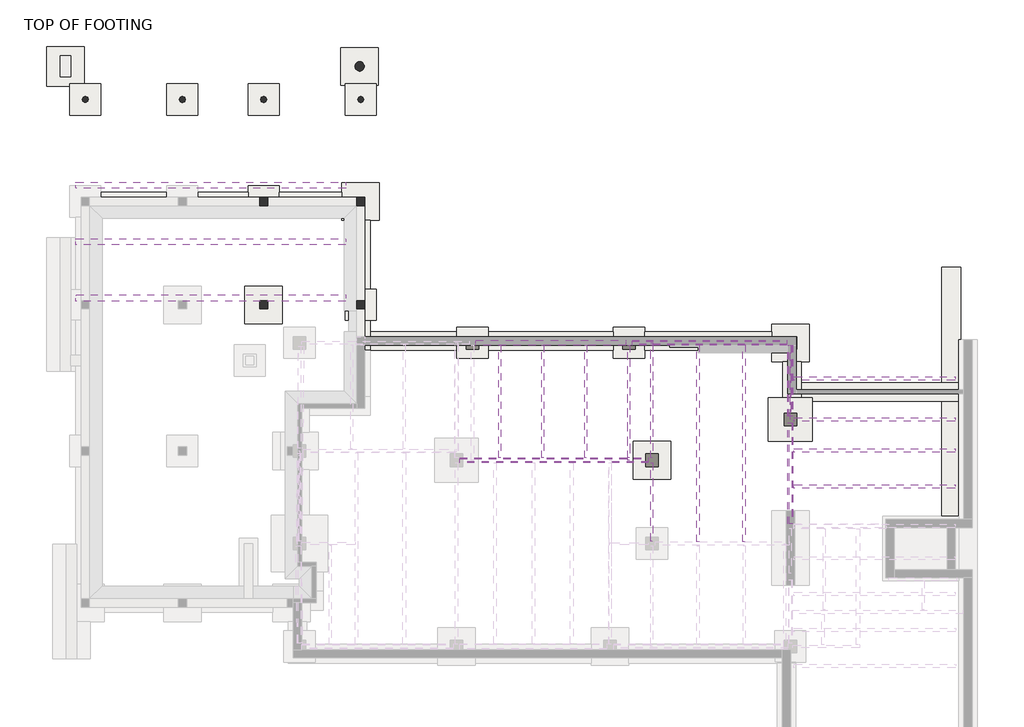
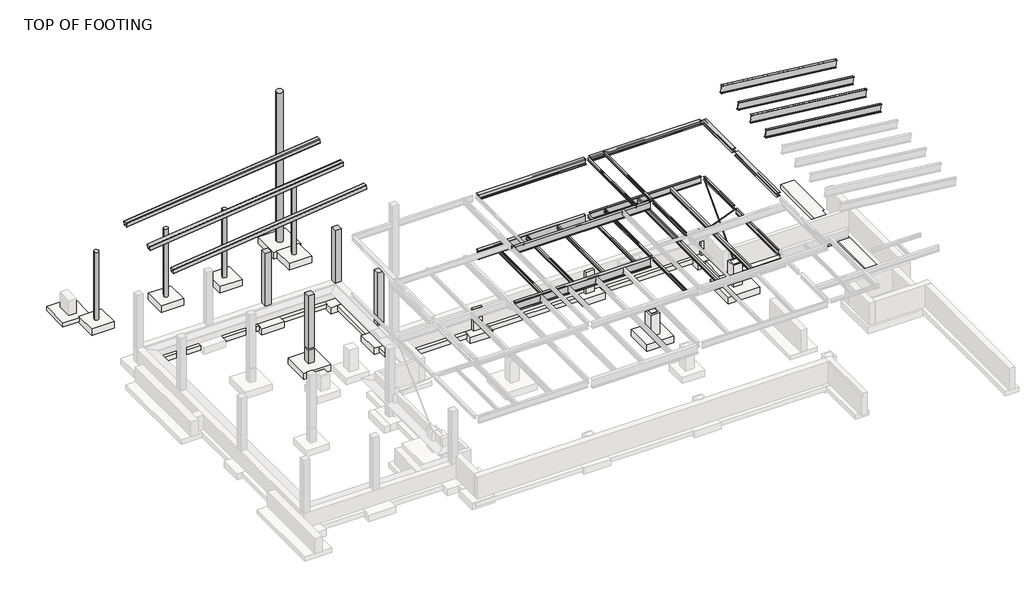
# One storey, part 4 of 4: 28 beams, 14 slabs, 9 columns, 7 footings, 2 members.
"""IFC4 building model written with IfcOpenShell, lengths in millimetres."""

from ifc_helpers import new_model, si_unit, point, frame, frame_2d, origin, place, context, project, spatial, polyline, circle_curve, trimmed, segment, composite_curve, outline, extrude, faceted_brep, transform, mapped, element, save
from components import hss_hollow_structural_section_hss12x12x1_2_ac1cf4bf, hss_hollow_structural_section_hss12x12x1_2_830ae8b1, w_wide_flange_w10x12_049afd95, w_wide_flange_w10x49_a7e93ba8, w_wide_flange_w10x49_ad4ce5ef, w_wide_flange_w10x49_01df90bb, w_wide_flange_w14x22_9bef81b0, w_wide_flange_w14x22_59cbeafc, w_wide_flange_w14x61_a1268b43, w_wide_flange_w18x46_8f6cf0fd, w_wide_flange_w21x44_e2a4c59a, w_wide_flange_w21x44_7aeec852, w_wide_flange_w21x44_d1ecdd04, w_wide_flange_w21x44_476cda67, w_wide_flange_w21x44_bd7c8782, w_wide_flange_w24x84_4cf10b94, w_wide_flange_w24x84_bdb729cd, w_wide_flange_w8x10_22581100, w_wide_flange_w8x10_418ab950, w_wide_flange_w8x10_6a41b71d, w_wide_flange_w8x10_1bc876d9, slab_df1ede25, slab_6d6a3403, footing_rectangular_with_pier_e052c68f

model = new_model("IFC4")

# Units and contexts
model_context = context("Model", 3, world=origin())
ifc_project = project(units=[si_unit("LENGTHUNIT", "METRE", prefix="MILLI")], contexts=[model_context])

# Site, building, storey
site = spatial("IfcSite", under=ifc_project)
building = spatial("IfcBuilding", under=site)
storey = spatial("IfcBuildingStorey", under=building, Name="TOP OF FOOTING", Elevation=28905.2)

# Beams
placement = place(None, origin())
hss_hollow_structural_section_hss12x12x1_2_shape = hss_hollow_structural_section_hss12x12x1_2_ac1cf4bf(model_context)
element("IfcBeam", 1, ObjectType="HSS-Hollow Structural Section : HSS12X12X1/2", at=placement, inside=storey, context=model_context, shape_type="MappedRepresentation", body=[
    mapped(hss_hollow_structural_section_hss12x12x1_2_shape, transform((-14730.32539, 15509.5995005, 39127.1188846), x_axis=(-0.9938030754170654, 0.0, -0.11115505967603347), y_axis=(0.0, -1.0, 0.0), z_axis=(-0.11115505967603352, 0.0, 0.9938030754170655))),
])
hss_hollow_structural_section_hss12x12x1_2_2_shape = hss_hollow_structural_section_hss12x12x1_2_830ae8b1(model_context)
element("IfcBeam", 2, ObjectType="HSS-Hollow Structural Section : HSS12X12X1/2", at=placement, inside=storey, context=model_context, shape_type="MappedRepresentation", body=[
    mapped(hss_hollow_structural_section_hss12x12x1_2_2_shape, transform((-14730.32539, 12766.3995005, 39127.1188846), x_axis=(-0.9938030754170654, 0.0, -0.11115505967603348), y_axis=(0.0, -1.0, 0.0), z_axis=(-0.1111550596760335, 0.0, 0.9938030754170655))),
])
element("IfcBeam", 3, ObjectType="HSS-Hollow Structural Section : HSS12X12X1/2", at=placement, inside=storey, context=model_context, shape_type="MappedRepresentation", body=[
    mapped(hss_hollow_structural_section_hss12x12x1_2_2_shape, transform((-14730.32539, 10023.1995005, 39127.1188846), x_axis=(-0.9938030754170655, 0.0, -0.11115505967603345), y_axis=(0.0, -1.0000000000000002, 0.0), z_axis=(-0.11115505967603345, 0.0, 0.9938030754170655))),
])
w_wide_flange_w10x12_shape = w_wide_flange_w10x12_049afd95(model_context)
element("IfcBeam", 4, ObjectType="W-Wide Flange : W10X12", at=placement, inside=storey, context=model_context, shape_type="MappedRepresentation", body=[
    mapped(w_wide_flange_w10x12_shape, transform((-589.9923357, 4984.1570005, 34253.551), x_axis=(0.0, -1.0, 0.0), y_axis=(1.0, 0.0, 0.0), z_axis=(0.0, 0.0, 1.0))),
])
element("IfcBeam", 5, ObjectType="W-Wide Flange : W10X12", at=placement, inside=storey, context=model_context, shape_type="MappedRepresentation", body=[
    mapped(w_wide_flange_w10x12_shape, transform((1509.8732893, 4984.1570005, 34253.551), x_axis=(0.0, -1.0, 0.0), y_axis=(1.0, 0.0, 0.0), z_axis=(0.0, 0.0, 1.0))),
])
element("IfcBeam", 6, ObjectType="W-Wide Flange : W10X12", at=placement, inside=storey, context=model_context, shape_type="MappedRepresentation", body=[
    mapped(w_wide_flange_w10x12_shape, transform((3609.7389143, 4984.1570005, 34253.551), x_axis=(0.0, -1.0, 0.0), y_axis=(1.0, 0.0, 0.0), z_axis=(0.0, 0.0, 1.0))),
])
w_wide_flange_w10x49_shape = w_wide_flange_w10x49_a7e93ba8(model_context)
element("IfcBeam", 7, ObjectType="W-Wide Flange : W10X49", at=placement, inside=storey, context=model_context, shape_type="MappedRepresentation", body=[
    mapped(w_wide_flange_w10x49_shape, transform((13567.7295393, 1507.2018176, 38341.3), x_axis=(0.0, -1.0, 0.0), y_axis=(1.0, 0.0, 0.0), z_axis=(0.0, 0.0, 1.0))),
])
w_wide_flange_w10x49_2_shape = w_wide_flange_w10x49_ad4ce5ef(model_context)
element("IfcBeam", 8, ObjectType="W-Wide Flange : W10X49", at=placement, inside=storey, context=model_context, shape_type="MappedRepresentation", body=[
    mapped(w_wide_flange_w10x49_2_shape, transform((9638.6670393, 7843.2445005, 38277.8), x_axis=(1.0, 0.0, 0.0), y_axis=(0.0, 1.0, 0.0), z_axis=(0.0, 0.0, 1.0))),
])
w_wide_flange_w10x49_3_shape = w_wide_flange_w10x49_01df90bb(model_context)
element("IfcBeam", 9, ObjectType="W-Wide Flange : W10X49", at=placement, inside=storey, context=model_context, shape_type="MappedRepresentation", body=[
    mapped(w_wide_flange_w10x49_3_shape, transform((13567.7295393, 5974.7570005, 38341.3), x_axis=(0.0, -1.0, 0.0), y_axis=(1.0, 0.0, 0.0), z_axis=(0.0, 0.0, 1.0))),
])
w_wide_flange_w14x22_shape = w_wide_flange_w14x22_9bef81b0(model_context)
element("IfcBeam", 10, ObjectType="W-Wide Flange : W14X22", at=placement, inside=storey, context=model_context, shape_type="MappedRepresentation", body=[
    mapped(w_wide_flange_w14x22_shape, transform((9072.9878726, 2953.7445005, 34204.91), x_axis=(0.0, -1.0, 0.0), y_axis=(1.0, 0.0, 0.0), z_axis=(0.0, 0.0, 1.0))),
])
element("IfcBeam", 11, ObjectType="W-Wide Flange : W14X22", at=placement, inside=storey, context=model_context, shape_type="MappedRepresentation", body=[
    mapped(w_wide_flange_w14x22_shape, transform((11320.358706, 2953.7445005, 34204.91), x_axis=(0.0, -1.0, 0.0), y_axis=(1.0, 0.0, 0.0), z_axis=(0.0, 0.0, 1.0))),
])
w_wide_flange_w14x22_2_shape = w_wide_flange_w14x22_59cbeafc(model_context)
element("IfcBeam", 12, ObjectType="W-Wide Flange : W14X22", at=placement, inside=storey, context=model_context, shape_type="MappedRepresentation", body=[
    mapped(w_wide_flange_w14x22_2_shape, transform((13567.7295393, 1512.895307, 34204.91), x_axis=(0.0, -1.0, 0.0), y_axis=(1.0, 0.0, 0.0), z_axis=(0.0, 0.0, 1.0))),
])
w_wide_flange_w14x61_shape = w_wide_flange_w14x61_a1268b43(model_context)
element("IfcBeam", 13, ObjectType="W-Wide Flange : W14X61", at=placement, inside=storey, context=model_context, shape_type="MappedRepresentation", body=[
    mapped(w_wide_flange_w14x61_shape, transform((1899.6045393, 7843.2445005, 38228.27), x_axis=(1.0, 0.0, 0.0), y_axis=(0.0, 1.0, 0.0), z_axis=(0.0, 0.0, 1.0))),
])
w_wide_flange_w18x46_shape = w_wide_flange_w18x46_8f6cf0fd(model_context)
element("IfcBeam", 14, ObjectType="W-Wide Flange : W18X46", at=placement, inside=storey, context=model_context, shape_type="MappedRepresentation", body=[
    mapped(w_wide_flange_w18x46_shape, transform((9638.6670393, 7843.2445005, 34149.03), x_axis=(1.0, 0.0, 0.0), y_axis=(0.0, 1.0, 0.0), z_axis=(0.0, 0.0, 1.0))),
])
w_wide_flange_w21x44_shape = w_wide_flange_w21x44_e2a4c59a(model_context)
element("IfcBeam", 15, ObjectType="W-Wide Flange : W21X44", at=placement, inside=storey, context=model_context, shape_type="MappedRepresentation", body=[
    mapped(w_wide_flange_w21x44_shape, transform((1975.8045393, 2125.0695005, 38141.91), x_axis=(1.0, 0.0, 0.0), y_axis=(0.0, 1.0, 0.0), z_axis=(0.0, 0.0, 1.0))),
])
w_wide_flange_w21x44_2_shape = w_wide_flange_w21x44_7aeec852(model_context)
element("IfcBeam", 16, ObjectType="W-Wide Flange : W21X44", at=placement, inside=storey, context=model_context, shape_type="MappedRepresentation", body=[
    mapped(w_wide_flange_w21x44_2_shape, transform((17638.6741644, 6094.6091164, 41130.9644247), x_axis=(0.9938030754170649, 0.0, -0.1111550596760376), y_axis=(0.0, 1.0, 0.0), z_axis=(0.11115505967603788, 0.0, 0.9938030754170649))),
])
w_wide_flange_w21x44_3_shape = w_wide_flange_w21x44_d1ecdd04(model_context)
element("IfcBeam", 17, ObjectType="W-Wide Flange : W21X44", at=placement, inside=storey, context=model_context, shape_type="MappedRepresentation", body=[
    mapped(w_wide_flange_w21x44_3_shape, transform((17638.6404524, 848.7029641, 41130.9681954), x_axis=(0.993803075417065, 0.0, -0.11115505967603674), y_axis=(0.0, 1.0, 0.0), z_axis=(0.11115505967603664, 0.0, 0.9938030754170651))),
])
w_wide_flange_w21x44_4_shape = w_wide_flange_w21x44_476cda67(model_context)
element("IfcBeam", 18, ObjectType="W-Wide Flange : W21X44", at=placement, inside=storey, context=model_context, shape_type="MappedRepresentation", body=[
    mapped(w_wide_flange_w21x44_4_shape, transform((17638.6516897, 2597.3383482, 41130.9669385), x_axis=(0.993803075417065, 0.0, -0.11115505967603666), y_axis=(0.0, 1.0, 0.0), z_axis=(0.11115505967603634, 0.0, 0.9938030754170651))),
])
w_wide_flange_w21x44_5_shape = w_wide_flange_w21x44_bd7c8782(model_context)
element("IfcBeam", 19, ObjectType="W-Wide Flange : W21X44", at=placement, inside=storey, context=model_context, shape_type="MappedRepresentation", body=[
    mapped(w_wide_flange_w21x44_5_shape, transform((17638.6613866, 4106.2695005, 41130.9658539), x_axis=(0.9938030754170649, 0.0, -0.1111550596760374), y_axis=(0.0, 0.9999999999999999, 0.0), z_axis=(0.1111550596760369, 0.0, 0.993803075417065))),
])
w_wide_flange_w24x84_shape = w_wide_flange_w24x84_4cf10b94(model_context)
element("IfcBeam", 20, ObjectType="W-Wide Flange : W24X84", at=placement, inside=storey, context=model_context, shape_type="MappedRepresentation", body=[
    mapped(w_wide_flange_w24x84_shape, transform((1899.6045393, 7843.2445005, 34072.83), x_axis=(1.0, 0.0, 0.0), y_axis=(0.0, 1.0, 0.0), z_axis=(0.0, 0.0, 1.0))),
])
w_wide_flange_w24x84_2_shape = w_wide_flange_w24x84_bdb729cd(model_context)
element("IfcBeam", 21, ObjectType="W-Wide Flange : W24X84", at=placement, inside=storey, context=model_context, shape_type="MappedRepresentation", body=[
    mapped(w_wide_flange_w24x84_2_shape, transform((1975.8045393, 2125.0695005, 34072.83), x_axis=(1.0, 0.0, 0.0), y_axis=(0.0, 1.0, 0.0), z_axis=(0.0, 0.0, 1.0))),
])
w_wide_flange_w8x10_shape = w_wide_flange_w8x10_22581100(model_context)
element("IfcBeam", 22, ObjectType="W-Wide Flange : W8X10", at=placement, inside=storey, context=model_context, shape_type="MappedRepresentation", body=[
    mapped(w_wide_flange_w8x10_shape, transform((5709.6045393, 4984.1570005, 34278.697), x_axis=(0.0, -1.0, 0.0), y_axis=(1.0, 0.0, 0.0), z_axis=(0.0, 0.0, 1.0))),
])
w_wide_flange_w8x10_2_shape = w_wide_flange_w8x10_418ab950(model_context)
element("IfcBeam", 23, ObjectType="W-Wide Flange : W8X10", at=placement, inside=storey, context=model_context, shape_type="MappedRepresentation", body=[
    mapped(w_wide_flange_w8x10_2_shape, transform((6825.6170393, 4984.1570005, 34278.697), x_axis=(0.0, -1.0, 0.0), y_axis=(1.0, 0.0, 0.0), z_axis=(0.0, 0.0, 1.0))),
])
w_wide_flange_w8x10_3_shape = w_wide_flange_w8x10_6a41b71d(model_context)
element("IfcBeam", 24, ObjectType="W-Wide Flange : W8X10", at=placement, inside=storey, context=model_context, shape_type="MappedRepresentation", body=[
    mapped(w_wide_flange_w8x10_3_shape, transform((5709.6045393, 4984.1570005, 38368.097), x_axis=(0.0, -1.0, 0.0), y_axis=(1.0, 0.0, 0.0), z_axis=(0.0, 0.0, 1.0))),
])
element("IfcBeam", 25, ObjectType="W-Wide Flange : W8X10", at=placement, inside=storey, context=model_context, shape_type="MappedRepresentation", body=[
    mapped(w_wide_flange_w8x10_3_shape, transform((6825.6170393, 4984.1570005, 38368.097), x_axis=(0.0, 1.0, 0.0), y_axis=(-1.0, 0.0, 0.0), z_axis=(0.0, 0.0, 1.0))),
])
w_wide_flange_w8x10_4_shape = w_wide_flange_w8x10_1bc876d9(model_context)
element("IfcBeam", 26, ObjectType="W-Wide Flange : W8X10", at=placement, inside=storey, context=model_context, shape_type="MappedRepresentation", body=[
    mapped(w_wide_flange_w8x10_4_shape, transform((6825.6170393, 94.6570005, 34278.697), x_axis=(0.0, -1.0, 0.0), y_axis=(1.0, 0.0, 0.0), z_axis=(0.0, 0.0, 1.0))),
])
element("IfcBeam", 27, ObjectType="W-Wide Flange : W8X10", at=placement, inside=storey, context=model_context, shape_type="MappedRepresentation", body=[
    mapped(w_wide_flange_w8x10_4_shape, transform((6825.6170393, 94.6570005, 38368.097), x_axis=(0.0, 1.0, 0.0), y_axis=(-1.0, 0.0, 0.0), z_axis=(0.0, 0.0, 1.0))),
])
element("IfcBeam", 28, ObjectType="W-Wide Flange : W8X18", at=placement, inside=storey, context=model_context, shape_type="SweptSolid", body=[
    extrude(outline(composite_curve([segment(polyline([(34180.526, 13634.4045393), (34180.526, 13582.9060393)]), True, "CONTINUOUS"), segment(trimmed(circle_curve(frame_2d((34192.7815, 13582.9060393)), 12.2555), [point((34180.526, 13582.9060393))], [point((34192.7815, 13570.6505393))], True, "CARTESIAN"), True, "CONTINUOUS"), segment(polyline([(34192.7815, 13570.6505393), (34358.2625, 13570.6505393)]), True, "CONTINUOUS"), segment(trimmed(circle_curve(frame_2d((34358.2625, 13582.9060393)), 12.2555), [point((34358.2625, 13570.6505393))], [point((34370.518, 13582.9060393))], True, "CARTESIAN"), True, "CONTINUOUS"), segment(polyline([(34370.518, 13582.9060393), (34370.518, 13634.4045393), (34378.9, 13634.4045393), (34378.9, 13501.0545393), (34370.518, 13501.0545393), (34370.518, 13552.5530393)]), True, "CONTINUOUS"), segment(trimmed(circle_curve(frame_2d((34358.2625, 13552.5530393)), 12.2555), [point((34370.518, 13552.5530393))], [point((34358.2625, 13564.8085393))], True, "CARTESIAN"), True, "CONTINUOUS"), segment(polyline([(34358.2625, 13564.8085393), (34192.7815, 13564.8085393)]), True, "CONTINUOUS"), segment(trimmed(circle_curve(frame_2d((34192.7815, 13552.5530393)), 12.2555), [point((34192.7815, 13564.8085393))], [point((34180.526, 13552.5530393))], True, "CARTESIAN"), True, "CONTINUOUS"), segment(polyline([(34180.526, 13552.5530393), (34180.526, 13501.0545393), (34172.144, 13501.0545393), (34172.144, 13634.4045393), (34180.526, 13634.4045393)]), True, "CONTINUOUS")], self_intersect=False)), frame((0.0, 4270.6253599, 0.0), z_axis=(0.0, 1.0, 0.0), x_axis=(0.0, 0.0, 1.0)), (0.0, 0.0, 1.0), 3458.2695313),
])

# Columns
element("IfcColumn", 29, ObjectType="Concrete-Rectangular-Column : 16 x 16", at=placement, inside=storey, context=model_context, shape_type="Brep", body=[
    faceted_brep([(-7149.1454607, 14926.6695005, 33782.0), (-7149.1454607, 14621.8695005, 33782.0), (-7149.1454607, 14520.2695005, 33782.0), (-7149.1454607, 14520.2695005, 29972.0), (-7149.1454607, 14926.6695005, 29972.0), (-7555.5454607, 14520.2695005, 33782.0), (-7555.5454607, 14520.2695005, 29972.0), (-7555.5454607, 14926.6695005, 33782.0), (-7555.5454607, 14926.6695005, 29972.0)], [[[0, 1, 2, 3, 4]], [[2, 5, 6, 3]], [[5, 7, 8, 6]], [[7, 0, 4, 8]], [[2, 1, 0, 7, 5]], [[4, 3, 6, 8]]]),
])
element("IfcColumn", 30, ObjectType="Concrete-Rectangular-Column : 16 x 16", at=placement, inside=storey, context=model_context, shape_type="SweptSolid", body=[
    extrude(outline(polyline([(-11873.5454607, 14926.6695005), (-11873.5454607, 14520.2695005), (-12279.9454607, 14520.2695005), (-12279.9454607, 14926.6695005), (-11873.5454607, 14926.6695005)])), frame((0.0, 0.0, 29972.0), z_axis=(0.0, 0.0, 1.0), x_axis=(1.0, 0.0, 0.0)), (0.0, 0.0, 1.0), 3810.0),
])
element("IfcColumn", 31, ObjectType="Concrete-Rectangular-Column : 16 x 16", at=placement, inside=storey, context=model_context, shape_type="Brep", body=[
    faceted_brep([(-7149.1454607, 9897.4695005, 33782.0), (-7149.1454607, 9795.8695005, 33782.0), (-7149.1454607, 9491.0695005, 33782.0), (-7149.1454607, 9491.0695005, 29972.0), (-7149.1454607, 9897.4695005, 29972.0), (-7555.5454607, 9491.0695005, 33782.0), (-7555.5454607, 9491.0695005, 29972.0), (-7555.5454607, 9897.4695005, 33782.0), (-7555.5454607, 9897.4695005, 29972.0)], [[[0, 1, 2, 3, 4]], [[2, 5, 6, 3]], [[5, 7, 8, 6]], [[7, 0, 4, 8]], [[2, 1, 0, 7, 5]], [[4, 3, 6, 8]]]),
])
element("IfcColumn", 32, ObjectType="Concrete-Rectangular-Column : 16 x 16", at=placement, inside=storey, context=model_context, shape_type="SweptSolid", body=[
    extrude(outline(polyline([(-11873.5454607, 9897.4695005), (-11873.5454607, 9491.0695005), (-12279.9454607, 9491.0695005), (-12279.9454607, 9897.4695005), (-11873.5454607, 9897.4695005)])), frame((0.0, 0.0, 28905.2), z_axis=(0.0, 0.0, 1.0), x_axis=(1.0, 0.0, 0.0)), (0.0, 0.0, 1.0), 965.2),
    extrude(outline(polyline([(-11873.5454607, 9897.4695005), (-11873.5454607, 9491.0695005), (-12279.9454607, 9491.0695005), (-12279.9454607, 9897.4695005), (-11873.5454607, 9897.4695005)])), frame((0.0, 0.0, 29972.0), z_axis=(0.0, 0.0, 1.0), x_axis=(1.0, 0.0, 0.0)), (0.0, 0.0, 1.0), 3810.0),
])
element("IfcColumn", 33, ObjectType="Concrete-Round-Column : 12\"", at=placement, inside=storey, context=model_context, shape_type="SweptSolid", body=[
    extrude(outline(composite_curve([segment(trimmed(circle_curve(frame_2d((-20763.5454607, 19695.5195005)), 152.4), [point((-20915.9454607, 19695.5195005))], [point((-20611.1454607, 19695.5195005))], False, "CARTESIAN"), True, "CONTINUOUS"), segment(trimmed(circle_curve(frame_2d((-20763.5454607, 19695.5195005)), 152.4), [point((-20611.1454607, 19695.5195005))], [point((-20915.9454607, 19695.5195005))], False, "CARTESIAN"), True, "CONTINUOUS")], self_intersect=False)), frame((0.0, 0.0, 28905.2), z_axis=(0.0, 0.0, 1.0), x_axis=(1.0, 0.0, 0.0)), (0.0, 0.0, 1.0), 4876.8),
])
element("IfcColumn", 34, ObjectType="Concrete-Round-Column : 12\"", at=placement, inside=storey, context=model_context, shape_type="SweptSolid", body=[
    extrude(outline(composite_curve([segment(trimmed(circle_curve(frame_2d((-16039.1454607, 19695.5195005)), 152.4), [point((-16191.5454607, 19695.5195005))], [point((-15886.7454607, 19695.5195005))], False, "CARTESIAN"), True, "CONTINUOUS"), segment(trimmed(circle_curve(frame_2d((-16039.1454607, 19695.5195005)), 152.4), [point((-15886.7454607, 19695.5195005))], [point((-16191.5454607, 19695.5195005))], False, "CARTESIAN"), True, "CONTINUOUS")], self_intersect=False)), frame((0.0, 0.0, 28905.2), z_axis=(0.0, 0.0, 1.0), x_axis=(1.0, 0.0, 0.0)), (0.0, 0.0, 1.0), 4876.8),
])
element("IfcColumn", 35, ObjectType="Concrete-Round-Column : 12\"", at=placement, inside=storey, context=model_context, shape_type="SweptSolid", body=[
    extrude(outline(composite_curve([segment(trimmed(circle_curve(frame_2d((-12076.7454607, 19695.5195005)), 152.4), [point((-12229.1454607, 19695.5195005))], [point((-11924.3454607, 19695.5195005))], False, "CARTESIAN"), True, "CONTINUOUS"), segment(trimmed(circle_curve(frame_2d((-12076.7454607, 19695.5195005)), 152.4), [point((-11924.3454607, 19695.5195005))], [point((-12229.1454607, 19695.5195005))], False, "CARTESIAN"), True, "CONTINUOUS")], self_intersect=False)), frame((0.0, 0.0, 28905.2), z_axis=(0.0, 0.0, 1.0), x_axis=(1.0, 0.0, 0.0)), (0.0, 0.0, 1.0), 4876.8),
])
element("IfcColumn", 36, ObjectType="Concrete-Round-Column : 12\"", at=placement, inside=storey, context=model_context, shape_type="SweptSolid", body=[
    extrude(outline(composite_curve([segment(trimmed(circle_curve(frame_2d((-7352.3454607, 19695.5195005)), 152.4), [point((-7504.7454607, 19695.5195005))], [point((-7199.9454607, 19695.5195005))], False, "CARTESIAN"), True, "CONTINUOUS"), segment(trimmed(circle_curve(frame_2d((-7352.3454607, 19695.5195005)), 152.4), [point((-7199.9454607, 19695.5195005))], [point((-7504.7454607, 19695.5195005))], False, "CARTESIAN"), True, "CONTINUOUS")], self_intersect=False)), frame((0.0, 0.0, 28905.2), z_axis=(0.0, 0.0, 1.0), x_axis=(1.0, 0.0, 0.0)), (0.0, 0.0, 1.0), 4876.8),
])
element("IfcColumn", 37, ObjectType="Concrete-Round-Column1 : 18\"", at=placement, inside=storey, context=model_context, shape_type="SweptSolid", body=[
    extrude(outline(composite_curve([segment(trimmed(circle_curve(frame_2d((-7403.1454607, 21302.0695005)), 228.6), [point((-7631.7454607, 21302.0695005))], [point((-7174.5454607, 21302.0695005))], False, "CARTESIAN"), True, "CONTINUOUS"), segment(trimmed(circle_curve(frame_2d((-7403.1454607, 21302.0695005)), 228.6), [point((-7174.5454607, 21302.0695005))], [point((-7631.7454607, 21302.0695005))], False, "CARTESIAN"), True, "CONTINUOUS")], self_intersect=False)), frame((0.0, 0.0, 28905.2), z_axis=(0.0, 0.0, 1.0), x_axis=(1.0, 0.0, 0.0)), (0.0, 0.0, 1.0), 10717.7043208),
])

# Footings
element("IfcFooting", 38, ObjectType="Bearing Footing - 36\" x 12\"", at=placement, inside=storey, context=model_context, shape_type="SweptSolid", body=[
    extrude(outline(polyline([(-8266.7454607, 15180.6695005), (-8266.7454607, 14266.2695005), (-11314.7454607, 14266.2695005), (-11314.7454607, 15180.6695005), (-8266.7454607, 15180.6695005)])), frame((0.0, 0.0, 28600.4), z_axis=(0.0, 0.0, 1.0), x_axis=(1.0, 0.0, 0.0)), (0.0, 0.0, 1.0), 304.8),
    extrude(outline(polyline([(-12838.7454607, 15180.6695005), (-12838.7454607, 14266.2695005), (-15277.1454607, 14266.2695005), (-15277.1454607, 15180.6695005), (-12838.7454607, 15180.6695005)])), frame((0.0, 0.0, 28600.4), z_axis=(0.0, 0.0, 1.0), x_axis=(1.0, 0.0, 0.0)), (0.0, 0.0, 1.0), 304.8),
    extrude(outline(polyline([(-16801.1454607, 15180.6695005), (-16801.1454607, 14266.2695005), (-20001.5454607, 14266.2695005), (-20001.5454607, 15180.6695005), (-16801.1454607, 15180.6695005)])), frame((0.0, 0.0, 28600.4), z_axis=(0.0, 0.0, 1.0), x_axis=(1.0, 0.0, 0.0)), (0.0, 0.0, 1.0), 304.8),
])
element("IfcFooting", 39, ObjectType="Bearing Footing - 36\" x 12\"", at=placement, inside=storey, context=model_context, shape_type="Brep", body=[
    faceted_brep([(-6895.1454607, 8932.2695005, 28905.2), (-7809.5454607, 8932.2695005, 28905.2), (-7809.5454607, 7471.7695005, 28905.2), (-6895.1454607, 7471.7695005, 28905.2), (-6895.1454607, 8386.1695005, 28905.2), (-6895.1454607, 7471.7695005, 28600.4), (-6895.1454607, 8386.1695005, 28600.4), (-6895.1454607, 8932.2695005, 28600.4), (-7809.5454607, 8932.2695005, 28600.4), (-7809.5454607, 7471.7695005, 28600.4)], [[[0, 1, 2, 3, 4]], [[3, 5, 6, 7, 0, 4]], [[8, 7, 6, 5, 9]], [[9, 2, 1, 8]], [[1, 0, 7, 8]], [[3, 2, 9, 5]]]),
    faceted_brep([(-7809.5454607, 10456.2695005, 28905.2), (-6895.1454607, 10456.2695005, 28905.2), (-6895.1454607, 13809.0695005, 28905.2), (-7809.5454607, 13809.0695005, 28905.2), (-6895.1454607, 10456.2695005, 28600.4), (-6895.1454607, 13809.0695005, 28600.4), (-7809.5454607, 10456.2695005, 28600.4), (-7809.5454607, 13809.0695005, 28600.4)], [[[0, 1, 2, 3]], [[1, 4, 5, 2]], [[4, 6, 7, 5]], [[6, 0, 3, 7]], [[1, 0, 6, 4]], [[3, 2, 5, 7]]]),
])
element("IfcFooting", 40, ObjectType="Bearing Footing - 36\" x 12\"", at=placement, inside=storey, context=model_context, shape_type="SweptSolid", body=[
    extrude(outline(polyline([(-2672.3954607, 8386.1695005), (-2672.3954607, 7471.7695005), (-6895.1454607, 7471.7695005), (-6895.1454607, 8386.1695005), (-2672.3954607, 8386.1695005)])), frame((0.0, 0.0, 28600.4), z_axis=(0.0, 0.0, 1.0), x_axis=(1.0, 0.0, 0.0)), (0.0, 0.0, 1.0), 304.8),
    extrude(outline(polyline([(-1148.3954607, 7471.7695005), (-1148.3954607, 8386.1695005), (4947.6045393, 8386.1695005), (4947.6045393, 7471.7695005), (-1148.3954607, 7471.7695005)])), frame((0.0, 0.0, 28600.4), z_axis=(0.0, 0.0, 1.0), x_axis=(1.0, 0.0, 0.0)), (0.0, 0.0, 1.0), 304.8),
    extrude(outline(polyline([(12653.3295393, 8386.1695005), (12653.3295393, 7471.7695005), (6471.6045393, 7471.7695005), (6471.6045393, 8386.1695005), (12653.3295393, 8386.1695005)])), frame((0.0, 0.0, 28600.4), z_axis=(0.0, 0.0, 1.0), x_axis=(1.0, 0.0, 0.0)), (0.0, 0.0, 1.0), 304.8),
])
element("IfcFooting", 41, ObjectType="Bearing Footing - 36\" x 12\"", at=placement, inside=storey, context=model_context, shape_type="Brep", body=[
    faceted_brep([(14110.6545393, 6928.8445005, 28905.2), (13196.2545393, 6928.8445005, 28905.2), (13196.2545393, 5173.0695005, 28905.2), (14110.6545393, 5173.0695005, 28905.2), (14110.6545393, 5909.6695005, 28905.2), (14110.6545393, 6928.8445005, 28600.4), (14110.6545393, 5173.0695005, 28600.4), (14110.6545393, 5909.6695005, 28600.4), (13196.2545393, 6928.8445005, 28600.4), (13196.2545393, 5173.0695005, 28600.4)], [[[0, 1, 2, 3, 4]], [[5, 0, 4, 3, 6, 7]], [[8, 5, 7, 6, 9]], [[1, 8, 9, 2]], [[1, 0, 5, 8]], [[3, 2, 9, 6]]]),
])
element("IfcFooting", 42, ObjectType="Bearing Footing - 36\" x 12\"", at=placement, inside=storey, context=model_context, shape_type="Brep", body=[
    faceted_brep([(14634.5295393, 5173.0695005, 28905.2), (14634.5295393, 4995.2695005, 28905.2), (20945.5861799, 4995.2695005, 28905.2), (21765.578935, 4995.2695005, 28905.2), (21765.578935, 5909.6695005, 28905.2), (20945.5861799, 5909.6695005, 28905.2), (14110.6545393, 5909.6695005, 28905.2), (14110.6545393, 5173.0695005, 28905.2), (21765.578935, 5909.6695005, 28600.4), (20945.5861799, 5909.6695005, 28600.4), (14110.6545393, 5909.6695005, 28600.4), (21765.578935, 4995.2695005, 28600.4), (20945.5861799, 4995.2695005, 28600.4), (14634.5295393, 4995.2695005, 28600.4), (14634.5295393, 5173.0695005, 28600.4), (14110.6545393, 5173.0695005, 28600.4)], [[[0, 1, 2, 3, 4, 5, 6, 7]], [[4, 8, 9, 10, 6, 5]], [[8, 11, 12, 13, 14, 15, 10, 9]], [[1, 13, 12, 11, 3, 2]], [[1, 0, 14, 13]], [[4, 3, 11, 8]], [[14, 0, 7, 15]], [[7, 6, 10, 15]]]),
])
element("IfcFooting", 43, ObjectType="Bearing Footing - 36\" x 12\"", at=placement, inside=storey, context=model_context, shape_type="SweptSolid", body=[
    extrude(outline(polyline([(21758.3861799, -605.4304995), (20945.5861799, -605.4304995), (20945.5861799, 4995.2695005), (21765.578935, 4995.2695005), (21765.578935, -3450.2304995), (21758.3861799, -3450.2304995), (21758.3861799, -605.4304995)])), frame((0.0, 0.0, 28600.4), z_axis=(0.0, 0.0, 1.0), x_axis=(1.0, 0.0, 0.0)), (0.0, 0.0, 1.0), 304.8),
    extrude(outline(polyline([(20945.5861799, 11523.0695005), (21859.9861799, 11523.0695005), (21859.9861799, 7995.5948911), (21765.578935, 7995.5948911), (21765.578935, 5909.6695005), (20945.5861799, 5909.6695005), (20945.5861799, 11523.0695005)])), frame((0.0, 0.0, 28600.4), z_axis=(0.0, 0.0, 1.0), x_axis=(1.0, 0.0, 0.0)), (0.0, 0.0, 1.0), 304.8),
])
element("IfcFooting", 44, ObjectType="Bearing Footing - 72\" x 12\" 2", at=placement, inside=storey, context=model_context, shape_type="SweptSolid", body=[
    extrude(outline(polyline([(-22651.3919313, 22270.6082736), (-20822.5919313, 22270.6082736), (-20822.5919313, 20457.5195005), (-21525.5454607, 20457.5195005), (-21525.5454607, 20340.2082736), (-22651.3919313, 20340.2082736), (-22651.3919313, 22270.6082736)])), frame((0.0, 0.0, 28600.4), z_axis=(0.0, 0.0, 1.0), x_axis=(1.0, 0.0, 0.0)), (0.0, 0.0, 1.0), 304.8),
])

# Members
element("IfcMember", 45, ObjectType="Round Bar : RB1", at=placement, inside=storey, context=model_context, shape_type="SweptSolid", body=[
    extrude(outline(composite_curve([segment(trimmed(circle_curve(frame_2d((0.0, -12.7)), 12.7), [point((0.0, -25.4))], [point((0.0, 0.0))], False, "CARTESIAN"), True, "CONTINUOUS"), segment(trimmed(circle_curve(frame_2d((0.0, -12.7)), 12.7), [point((0.0, 0.0))], [point((0.0, -25.4))], False, "CARTESIAN"), True, "CONTINUOUS")], self_intersect=False)), frame((13555.0295393, 4275.8774399, 30482.5348851), z_axis=(0.0, 0.6851097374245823, 0.7284398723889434), x_axis=(0.0, 0.7284398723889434, -0.6851097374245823)), (0.0, 0.0, 1.0), 4991.1009602),
])
element("IfcMember", 46, ObjectType="Round Bar : RB1", at=placement, inside=storey, context=model_context, shape_type="SweptSolid", body=[
    extrude(outline(composite_curve([segment(trimmed(circle_curve(frame_2d((0.0, -12.7)), 12.7), [point((0.0, -25.4))], [point((0.0, 0.0))], False, "CARTESIAN"), True, "CONTINUOUS"), segment(trimmed(circle_curve(frame_2d((0.0, -12.7)), 12.7), [point((0.0, 0.0))], [point((0.0, -25.4))], False, "CARTESIAN"), True, "CONTINUOUS")], self_intersect=False)), frame((13580.4295393, 7693.2003014, 30493.7622922), z_axis=(0.0, -0.694970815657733, 0.7190379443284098), x_axis=(0.0, -0.7190379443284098, -0.694970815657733)), (0.0, 0.0, 1.0), 5135.428437),
])

# Slabs
element("IfcSlab", 47, ObjectType="Footing-Rectangular : 5'-0\" x 5'-0\" x 1'-6\"", at=placement, inside=storey, context=model_context, shape_type="Brep", body=[
    faceted_brep([(-6590.3454607, 10456.2695005, 28905.2), (-6895.1454607, 10456.2695005, 28905.2), (-7809.5454607, 10456.2695005, 28905.2), (-8114.3454607, 10456.2695005, 28905.2), (-8114.3454607, 8932.2695005, 28905.2), (-7809.5454607, 8932.2695005, 28905.2), (-6895.1454607, 8932.2695005, 28905.2), (-6590.3454607, 8932.2695005, 28905.2), (-6590.3454607, 10456.2695005, 28448.0), (-6590.3454607, 8932.2695005, 28448.0), (-8114.3454607, 8932.2695005, 28448.0), (-8114.3454607, 10456.2695005, 28448.0)], [[[0, 1, 2, 3, 4, 5, 6, 7]], [[8, 9, 10, 11]], [[3, 2, 1, 0, 8, 11]], [[4, 3, 11, 10]], [[7, 6, 5, 4, 10, 9]], [[0, 7, 9, 8]]]),
])
element("IfcSlab", 48, ObjectType="Footing-Rectangular : 5'-0\" x 5'-0\" x 1'-6\"", at=placement, inside=storey, context=model_context, shape_type="Brep", body=[
    faceted_brep([(-11314.7454607, 15485.4695005, 28905.2), (-12838.7454607, 15485.4695005, 28905.2), (-12838.7454607, 15180.6695005, 28905.2), (-12838.7454607, 14266.2695005, 28905.2), (-12838.7454607, 13961.4695005, 28905.2), (-11314.7454607, 13961.4695005, 28905.2), (-11314.7454607, 14266.2695005, 28905.2), (-11314.7454607, 15180.6695005, 28905.2), (-11314.7454607, 15485.4695005, 28448.0), (-11314.7454607, 13961.4695005, 28448.0), (-12838.7454607, 13961.4695005, 28448.0), (-12838.7454607, 15485.4695005, 28448.0)], [[[0, 1, 2, 3, 4, 5, 6, 7]], [[8, 9, 10, 11]], [[1, 0, 8, 11]], [[4, 3, 2, 1, 11, 10]], [[5, 4, 10, 9]], [[0, 7, 6, 5, 9, 8]]]),
])
element("IfcSlab", 49, ObjectType="Footing-Rectangular : 5'-0\" x 5'-0\" x 1'-6\"", at=placement, inside=storey, context=model_context, shape_type="Brep", body=[
    faceted_brep([(-20001.5454607, 20457.5195005, 28905.2), (-20822.5919313, 20457.5195005, 28905.2), (-21525.5454607, 20457.5195005, 28905.2), (-21525.5454607, 20340.2082736, 28905.2), (-21525.5454607, 18933.5195005, 28905.2), (-20001.5454607, 18933.5195005, 28905.2), (-20001.5454607, 20457.5195005, 28448.0), (-20001.5454607, 18933.5195005, 28448.0), (-21525.5454607, 18933.5195005, 28448.0), (-21525.5454607, 20457.5195005, 28448.0), (-21525.5454607, 20457.5195005, 28600.4)], [[[0, 1, 2, 3, 4, 5]], [[6, 7, 8, 9]], [[2, 1, 0, 6, 9, 10]], [[4, 3, 2, 10, 9, 8]], [[5, 4, 8, 7]], [[0, 5, 7, 6]]]),
])
element("IfcSlab", 50, ObjectType="Footing-Rectangular : 5'-0\" x 5'-0\" x 1'-6\"", at=placement, inside=storey, context=model_context, shape_type="Brep", body=[
    faceted_brep([(-6590.3454607, 20457.5195005, 28905.2), (-8114.3454607, 20457.5195005, 28905.2), (-8114.3454607, 20387.6695005, 28905.2), (-8114.3454607, 18933.5195005, 28905.2), (-6590.3454607, 18933.5195005, 28905.2), (-6590.3454607, 20387.6695005, 28905.2), (-6590.3454607, 20457.5195005, 28448.0), (-6590.3454607, 20387.6695005, 28448.0), (-6590.3454607, 18933.5195005, 28448.0), (-8114.3454607, 18933.5195005, 28448.0), (-8114.3454607, 20387.6695005, 28448.0), (-8114.3454607, 20457.5195005, 28448.0)], [[[0, 1, 2, 3, 4, 5]], [[6, 7, 8, 9, 10, 11]], [[1, 0, 6, 11]], [[3, 2, 1, 11, 10, 9]], [[4, 3, 9, 8]], [[0, 5, 4, 8, 7, 6]]]),
])
slab_shape = slab_df1ede25(model_context)
element("IfcSlab", 51, ObjectType="Footing-Rectangular : 5'-0\" x 5'-0\" x 1'-6\"", at=placement, inside=storey, context=model_context, shape_type="MappedRepresentation", body=[
    mapped(slab_shape, transform((-16039.1454607, 19695.5195005, 28905.2), x_axis=(1.0, 0.0, 0.0), y_axis=(0.0, 1.0, 0.0), z_axis=(0.0, 0.0, 1.0))),
])
element("IfcSlab", 52, ObjectType="Footing-Rectangular : 5'-0\" x 5'-0\" x 1'-6\"", at=placement, inside=storey, context=model_context, shape_type="MappedRepresentation", body=[
    mapped(slab_shape, transform((-12076.7454607, 19695.5195005, 28905.2), x_axis=(1.0, 0.0, 0.0), y_axis=(0.0, 1.0, 0.0), z_axis=(0.0, 0.0, 1.0))),
])
element("IfcSlab", 53, ObjectType="Footing-Rectangular : 6'-0\" x 6'-0\" x 1'-6\"", at=placement, inside=storey, context=model_context, shape_type="Brep", body=[
    faceted_brep([(-6437.9454607, 15637.8695005, 28905.2), (-8266.7454607, 15637.8695005, 28905.2), (-8266.7454607, 15180.6695005, 28905.2), (-8266.7454607, 14266.2695005, 28905.2), (-8266.7454607, 13809.0695005, 28905.2), (-7809.5454607, 13809.0695005, 28905.2), (-6895.1454607, 13809.0695005, 28905.2), (-6437.9454607, 13809.0695005, 28905.2), (-6437.9454607, 15637.8695005, 28448.0), (-6437.9454607, 13809.0695005, 28448.0), (-8266.7454607, 13809.0695005, 28448.0), (-8266.7454607, 15637.8695005, 28448.0)], [[[0, 1, 2, 3, 4, 5, 6, 7]], [[8, 9, 10, 11]], [[1, 0, 8, 11]], [[4, 3, 2, 1, 11, 10]], [[7, 6, 5, 4, 10, 9]], [[0, 7, 9, 8]]]),
])
element("IfcSlab", 54, ObjectType="Footing-Rectangular : 6'-0\" x 6'-0\" x 1'-6\"", at=placement, inside=storey, context=model_context, shape_type="SweptSolid", body=[
    extrude(outline(polyline([(-6488.7454607, 22216.4695005), (-6488.7454607, 20387.6695005), (-6590.3454607, 20387.6695005), (-6590.3454607, 20457.5195005), (-8114.3454607, 20457.5195005), (-8114.3454607, 20387.6695005), (-8317.5454607, 20387.6695005), (-8317.5454607, 22216.4695005), (-6488.7454607, 22216.4695005)])), frame((0.0, 0.0, 28448.0), z_axis=(0.0, 0.0, 1.0), x_axis=(1.0, 0.0, 0.0)), (0.0, 0.0, 1.0), 457.2),
])
slab_2_shape = slab_6d6a3403(model_context)
element("IfcSlab", 55, ObjectType="Footing-Rectangular : 6'-0\" x 6'-0\" x 1'-6\"", at=placement, inside=storey, context=model_context, shape_type="MappedRepresentation", body=[
    mapped(slab_2_shape, transform((-12076.7454607, 9694.2695005, 28905.2), x_axis=(1.0, 0.0, 0.0), y_axis=(0.0, 1.0, 0.0), z_axis=(0.0, 0.0, 1.0))),
])
element("IfcSlab", 56, ObjectType="Footing-Rectangular_With_Pier : F1 - 5'-0\" x 5'-0\" x 1'-6\"", at=placement, inside=storey, context=model_context, shape_type="SolidModel", body=[
    extrude(outline(polyline([(-1605.5954607, 8148.0445005), (-1605.5954607, 7538.4445005), (-2215.1954607, 7538.4445005), (-2215.1954607, 8148.0445005), (-1605.5954607, 8148.0445005)])), frame((0.0, 0.0, 28905.2), z_axis=(0.0, 0.0, 1.0), x_axis=(1.0, 0.0, 0.0)), (0.0, 0.0, 1.0), 1549.4),
    faceted_brep([(-1148.3954607, 8605.2445005, 28905.2), (-2672.3954607, 8605.2445005, 28905.2), (-2672.3954607, 8386.1695005, 28905.2), (-2672.3954607, 7471.7695005, 28905.2), (-2672.3954607, 7081.2445005, 28905.2), (-1148.3954607, 7081.2445005, 28905.2), (-1148.3954607, 7471.7695005, 28905.2), (-1148.3954607, 8386.1695005, 28905.2), (-1148.3954607, 8605.2445005, 28448.0), (-1148.3954607, 7081.2445005, 28448.0), (-2672.3954607, 7081.2445005, 28448.0), (-2672.3954607, 8605.2445005, 28448.0)], [[[0, 1, 2, 3, 4, 5, 6, 7]], [[8, 9, 10, 11]], [[1, 0, 8, 11]], [[4, 3, 2, 1, 11, 10]], [[5, 4, 10, 9]], [[0, 7, 6, 5, 9, 8]]]),
])
element("IfcSlab", 57, ObjectType="Footing-Rectangular_With_Pier : F1 - 5'-0\" x 5'-0\" x 1'-6\"", at=placement, inside=storey, context=model_context, shape_type="SolidModel", body=[
    extrude(outline(polyline([(6014.4045393, 8148.0445005), (6014.4045393, 7538.4445005), (5404.8045393, 7538.4445005), (5404.8045393, 8148.0445005), (6014.4045393, 8148.0445005)])), frame((0.0, 0.0, 28905.2), z_axis=(0.0, 0.0, 1.0), x_axis=(1.0, 0.0, 0.0)), (0.0, 0.0, 1.0), 1549.4),
    faceted_brep([(6471.6045393, 8605.2445005, 28905.2), (4947.6045393, 8605.2445005, 28905.2), (4947.6045393, 8386.1695005, 28905.2), (4947.6045393, 7471.7695005, 28905.2), (4947.6045393, 7081.2445005, 28905.2), (6471.6045393, 7081.2445005, 28905.2), (6471.6045393, 7471.7695005, 28905.2), (6471.6045393, 8386.1695005, 28905.2), (6471.6045393, 8605.2445005, 28448.0), (6471.6045393, 7081.2445005, 28448.0), (4947.6045393, 7081.2445005, 28448.0), (4947.6045393, 8605.2445005, 28448.0)], [[[0, 1, 2, 3, 4, 5, 6, 7]], [[8, 9, 10, 11]], [[1, 0, 8, 11]], [[4, 3, 2, 1, 11, 10]], [[5, 4, 10, 9]], [[0, 7, 6, 5, 9, 8]]]),
])
element("IfcSlab", 58, ObjectType="Footing-Rectangular_With_Pier : F3 - 6'-0\" x 6'-0\" x 1'-6\"", at=placement, inside=storey, context=model_context, shape_type="SolidModel", body=[
    extrude(outline(polyline([(13872.5295393, 8148.0445005), (13872.5295393, 7538.4445005), (13262.9295393, 7538.4445005), (13262.9295393, 8148.0445005), (13872.5295393, 8148.0445005)])), frame((0.0, 0.0, 28905.2), z_axis=(0.0, 0.0, 1.0), x_axis=(1.0, 0.0, 0.0)), (0.0, 0.0, 1.0), 1549.4),
    faceted_brep([(14482.1295393, 8757.6445005, 28905.2), (12653.3295393, 8757.6445005, 28905.2), (12653.3295393, 8386.1695005, 28905.2), (12653.3295393, 7471.7695005, 28905.2), (12653.3295393, 6928.8445005, 28905.2), (13196.2545393, 6928.8445005, 28905.2), (14110.6545393, 6928.8445005, 28905.2), (14482.1295393, 6928.8445005, 28905.2), (14482.1295393, 8757.6445005, 28448.0), (14482.1295393, 6928.8445005, 28448.0), (12653.3295393, 6928.8445005, 28448.0), (12653.3295393, 8757.6445005, 28448.0)], [[[0, 1, 2, 3, 4, 5, 6, 7]], [[8, 9, 10, 11]], [[1, 0, 8, 11]], [[4, 3, 2, 1, 11, 10]], [[7, 6, 5, 4, 10, 9]], [[0, 7, 9, 8]]]),
    extrude(outline(polyline([(13770.9295393, 8046.4445005), (13770.9295393, 7640.0445005), (13364.5295393, 7640.0445005), (13364.5295393, 8046.4445005), (13770.9295393, 8046.4445005)])), frame((0.0, 0.0, 30454.6), z_axis=(0.0, 0.0, 1.0), x_axis=(1.0, 0.0, 0.0)), (0.0, 0.0, 1.0), 25.4),
])
element("IfcSlab", 59, ObjectType="Footing-Rectangular_With_Pier : F6 - 7'-0\" x 7'-0\" x 1'-6\"", at=placement, inside=storey, context=model_context, shape_type="SolidModel", body=[
    extrude(outline(polyline([(13872.5295393, 4411.0695005), (13872.5295393, 3801.4695005), (13262.9295393, 3801.4695005), (13262.9295393, 4411.0695005), (13872.5295393, 4411.0695005)])), frame((0.0, 0.0, 28905.2), z_axis=(0.0, 0.0, 1.0), x_axis=(1.0, 0.0, 0.0)), (0.0, 0.0, 1.0), 1549.4),
    faceted_brep([(14634.5295393, 5173.0695005, 28905.2), (14110.6545393, 5173.0695005, 28905.2), (13196.2545393, 5173.0695005, 28905.2), (12500.9295393, 5173.0695005, 28905.2), (12500.9295393, 3039.4695005, 28905.2), (14634.5295393, 3039.4695005, 28905.2), (14634.5295393, 4995.2695005, 28905.2), (14634.5295393, 5173.0695005, 28448.0), (14634.5295393, 3039.4695005, 28448.0), (12500.9295393, 3039.4695005, 28448.0), (12500.9295393, 5173.0695005, 28448.0), (14634.5295393, 5173.0695005, 28600.4)], [[[0, 1, 2, 3, 4, 5, 6]], [[7, 8, 9, 10]], [[3, 2, 1, 0, 11, 7, 10]], [[4, 3, 10, 9]], [[5, 4, 9, 8]], [[0, 6, 5, 8, 7, 11]]]),
    extrude(outline(polyline([(13770.9295393, 4309.4695005), (13770.9295393, 3903.0695005), (13364.5295393, 3903.0695005), (13364.5295393, 4309.4695005), (13770.9295393, 4309.4695005)])), frame((0.0, 0.0, 30454.6), z_axis=(0.0, 0.0, 1.0), x_axis=(1.0, 0.0, 0.0)), (0.0, 0.0, 1.0), 25.4),
])
footing_rectangular_with_pier_shape = footing_rectangular_with_pier_e052c68f(model_context)
element("IfcSlab", 60, ObjectType="Footing-Rectangular_With_Pier : F3 - 6'-0\" x 6'-0\" x 1'-6\"", at=placement, inside=storey, context=model_context, shape_type="MappedRepresentation", body=[
    mapped(footing_rectangular_with_pier_shape, transform((6825.6170393, 2125.0695005, 28905.2), x_axis=(1.0, 0.0, 0.0), y_axis=(0.0, 1.0, 0.0), z_axis=(0.0, 0.0, 1.0))),
])

save(model, "model.ifc")
